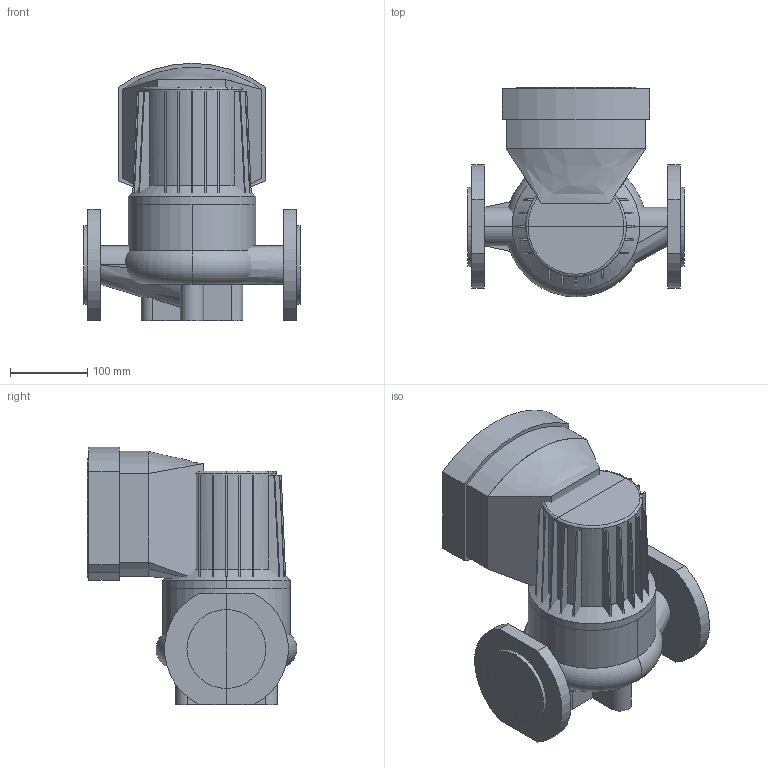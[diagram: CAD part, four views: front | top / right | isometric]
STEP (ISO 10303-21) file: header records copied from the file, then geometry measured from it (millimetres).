
FILE_DESCRIPTION(/* description */ (''),/* implementation_level */ '2;1');
FILE_NAME(/* name */ 'C:\Users\a.zyazeva\Desktop\Wellmix\TG TD WRE WRS\WRE 50-120F.stp',/* time_stamp */ '2024-08-28T00:12:42+03:00',/* author */ ('a.zyazeva'),/* organization */ (''),/* preprocessor_version */ 'ST-DEVELOPER v18.1',/* originating_system */ 'Autodesk Inventor 2022',/* authorisation */ '');
FILE_SCHEMA (('AUTOMOTIVE_DESIGN { 1 0 10303 214 3 1 1 }'));
Length unit declared in the file: millimetre
Products named in the file (1): WRE 50-120F
Bounding box: 280 x 271 x 332.8 mm (x, y, z)
Volume: 10193106.9 mm3; surface area: 814295.1 mm2
Topology: 10 solids, 10 shells, 265 faces, 690 edges, 451 vertices
Faces by surface type: plane 212, cylinder 24, bspline 23, torus 4, cone 2
Entity records: 9207 total; most frequent: CARTESIAN_POINT 2849, ORIENTED_EDGE 1380, DIRECTION 1168, EDGE_CURVE 690, LINE 502, VECTOR 502, VERTEX_POINT 451, AXIS2_PLACEMENT_3D 333
